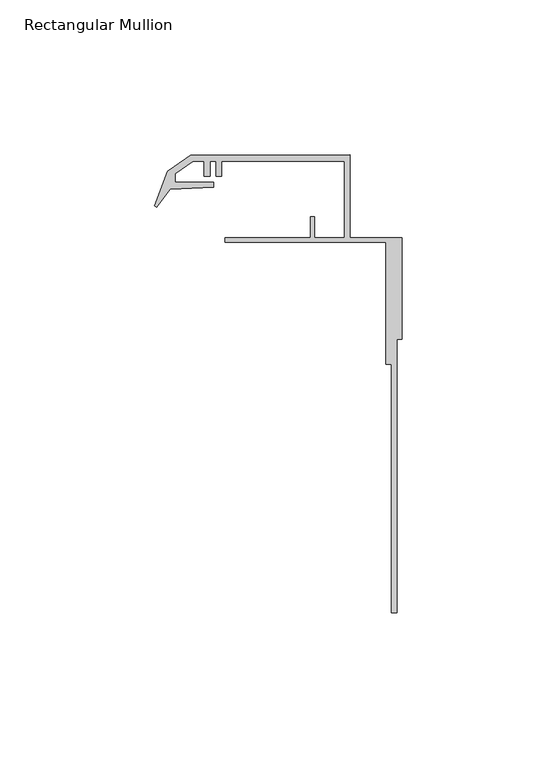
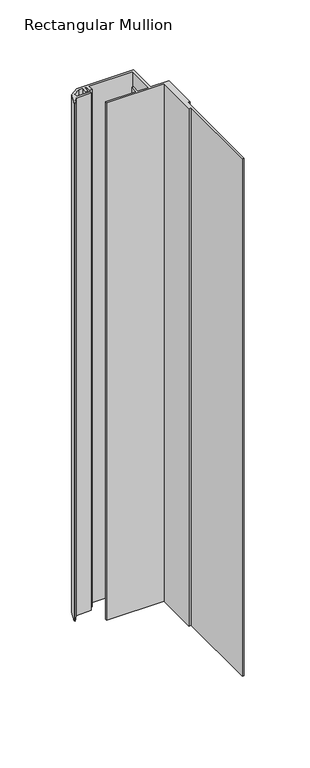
"""IFC4 building model written with IfcOpenShell, lengths in millimetres: member geometry, Rectangular Mullion : Danpal_VRS_Bottom-Mullion."""

from ifc_helpers import new_model, si_unit, frame, origin, place, context, project, spatial, polyline, outline, extrude, source, transform, mapped, element, save


def rectangular_mullion_389ec351(model_context):
    return source(origin(), model_context, "Body", "SweptSolid", [
        extrude(outline(polyline([(-79.2216912, -6.0092055), (-79.8611478, -5.5368244), (-75.6571036, 5.6694173), (-68.3166726, 10.8161429), (-16.7984887, 10.8734616), (-16.7999993, -15.8303605), (0.0, -15.8313106), (-0.0018572, -48.6692538), (-1.6831072, -48.6691587), (-1.6880948, -136.8582832), (-3.4068448, -136.858186), (-3.4023089, -56.6573743), (-5.3023089, -56.6572668), (-5.3000793, -17.2330591), (-57.2163694, -17.230123), (-57.2163694, -15.8280747), (-29.6, -15.8296366), (-29.5996176, -9.069761), (-28.2996176, -9.0698346), (-28.3, -15.8297101), (-18.6, -15.8302587), (-18.5986033, 8.8647387), (-58.2791429, 8.8669829), (-58.2791429, 4.0153253), (-60.1494911, 4.0153253), (-60.1494911, 8.8671961), (-62.0481149, 8.8671961), (-62.0481149, 4.0153253), (-63.9180616, 4.0153253), (-63.9180616, 8.8673018), (-67.5141123, 8.8675052), (-73.2988278, 4.8793924), (-73.2989907, 1.9992875), (-60.8734145, 1.9985848), (-60.8734984, 0.5155366), (-74.8674586, -0.1149337), (-79.2216912, -6.0092055)])), frame((0.0, 0.0, -495.0), z_axis=(0.0, 0.0, 1.0), x_axis=(1.0, 0.0, 0.0)), (0.0, 0.0, 1.0), 495.0),
    ])


if __name__ == "__main__":
    model = new_model("IFC4")
    model_context = context("Model", 3, world=origin())
    ifc_project = project(units=[si_unit("LENGTHUNIT", "METRE", prefix="MILLI")], contexts=[model_context])
    site = spatial("IfcSite", under=ifc_project)
    building = spatial("IfcBuilding", under=site)
    placement = place(None, origin())
    rectangular_mullion_shape = rectangular_mullion_389ec351(model_context)
    element("IfcMember", 1, ObjectType="Rectangular Mullion : Danpal_VRS_Bottom-Mullion", at=placement, inside=building, context=model_context, shape_type="MappedRepresentation", body=[
        mapped(rectangular_mullion_shape, transform((0.0, 0.0, 0.0), x_axis=(1.0, 0.0, 0.0), y_axis=(0.0, 1.0, 0.0), z_axis=(0.0, 0.0, 1.0))),
    ])
    save(model, "model.ifc")
